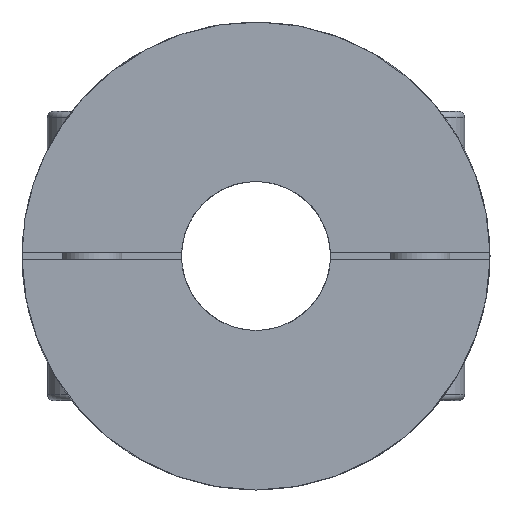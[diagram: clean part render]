
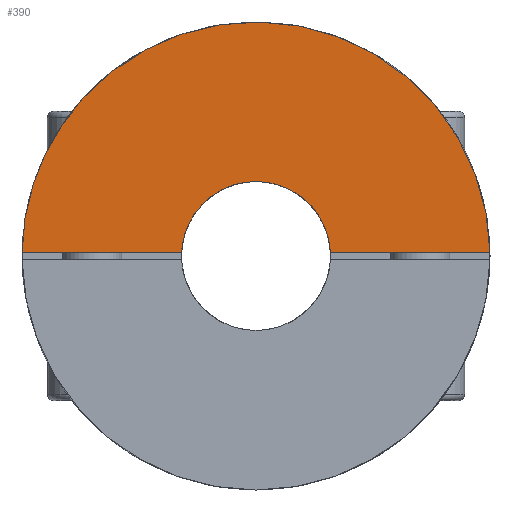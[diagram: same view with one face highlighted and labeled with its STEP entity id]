
A CAD part, left-side view. The second image highlights one B-rep face of the part: STEP entity #390.
In plain terms, the highlighted planar face has unit normal (-1, 0, 0) as drawn and (1, 0, 0) by its records, which use the part's own axes.
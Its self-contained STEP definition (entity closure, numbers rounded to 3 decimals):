
#390 = ADVANCED_FACE( '', ( #778 ), #779, .T. );
#778 = FACE_OUTER_BOUND( '', #1161, .T. );
#779 = PLANE( '', #1162 );
#1161 = EDGE_LOOP( '', ( #1692, #1693, #1694, #1695 ) );
#1162 = AXIS2_PLACEMENT_3D( '', #1696, #1697, #1698 );
#1692 = ORIENTED_EDGE( '', *, *, #2007, .F. );
#1693 = ORIENTED_EDGE( '', *, *, #1997, .F. );
#1694 = ORIENTED_EDGE( '', *, *, #1932, .F. );
#1695 = ORIENTED_EDGE( '', *, *, #2032, .T. );
#1696 = CARTESIAN_POINT( '', ( 38.215, 0., 78.5 ) );
#1697 = DIRECTION( '', ( 1., 0., 0. ) );
#1698 = DIRECTION( '', ( 0., 1., 0. ) );
#1932 = EDGE_CURVE( '', #2195, #2193, #2197, .T. );
#1997 = EDGE_CURVE( '', #2193, #2294, #2295, .T. );
#2007 = EDGE_CURVE( '', #2294, #2306, #2308, .T. );
#2032 = EDGE_CURVE( '', #2195, #2306, #2338, .T. );
#2193 = VERTEX_POINT( '', #2542 );
#2195 = VERTEX_POINT( '', #2545 );
#2197 = LINE( '', #2548, #2549 );
#2294 = VERTEX_POINT( '', #2875 );
#2295 = CIRCLE( '', #2876, 78.5 );
#2306 = VERTEX_POINT( '', #3119 );
#2308 = LINE( '', #3122, #3123 );
#2338 = CIRCLE( '', #3167, 25. );
#2542 = CARTESIAN_POINT( '', ( 38.215, -78.49, 1.25 ) );
#2545 = CARTESIAN_POINT( '', ( 38.215, -24.969, 1.25 ) );
#2548 = CARTESIAN_POINT( '', ( 38.215, 0., 1.25 ) );
#2549 = VECTOR( '', #3337, 1000. );
#2875 = CARTESIAN_POINT( '', ( 38.215, 78.49, 1.25 ) );
#2876 = AXIS2_PLACEMENT_3D( '', #3425, #3426, #3427 );
#3119 = CARTESIAN_POINT( '', ( 38.215, 24.969, 1.25 ) );
#3122 = CARTESIAN_POINT( '', ( 38.215, 0., 1.25 ) );
#3123 = VECTOR( '', #3437, 1000. );
#3167 = AXIS2_PLACEMENT_3D( '', #3456, #3457, #3458 );
#3337 = DIRECTION( '', ( 0., -1., 0. ) );
#3425 = CARTESIAN_POINT( '', ( 38.215, 0., 0. ) );
#3426 = DIRECTION( '', ( -1., 0., 0. ) );
#3427 = DIRECTION( '', ( 0., 0., 1. ) );
#3437 = DIRECTION( '', ( 0., -1., 0. ) );
#3456 = CARTESIAN_POINT( '', ( 38.215, 0., 0. ) );
#3457 = DIRECTION( '', ( -1., 0., 0. ) );
#3458 = DIRECTION( '', ( 0., 0., 1. ) );
